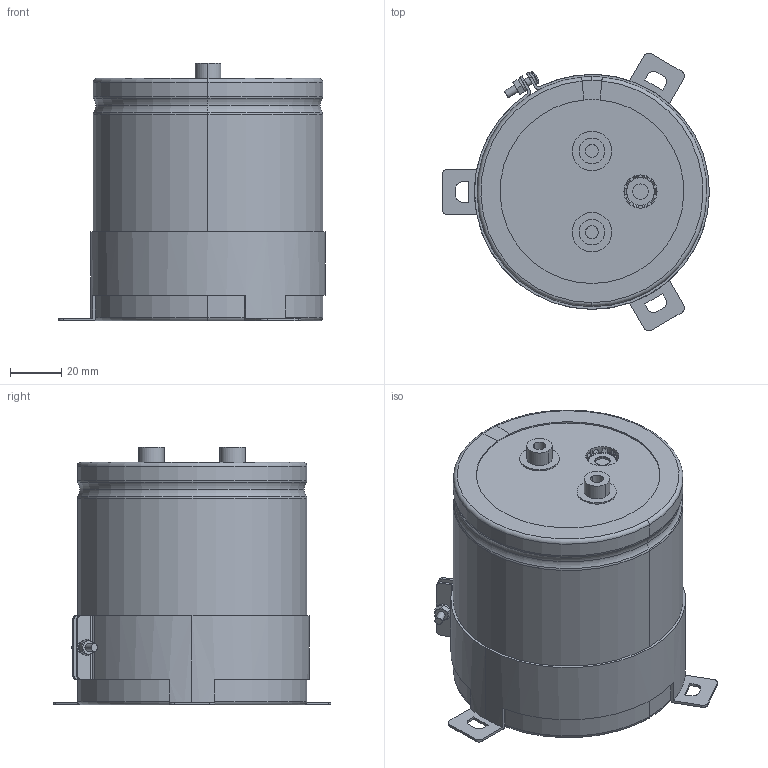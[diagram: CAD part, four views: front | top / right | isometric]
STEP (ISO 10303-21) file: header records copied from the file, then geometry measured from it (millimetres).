
FILE_DESCRIPTION(('STEP AP214'),'1');
FILE_NAME('90x95_Screw.stp','2022-03-14T05:41:08',(' '),(' '),'Spatial InterOp 3D',' ',' ');
FILE_SCHEMA(('AUTOMOTIVE_DESIGN { 1 0 10303 214 1 1 1 1 }'));
Length unit declared in the file: metre
Products named in the file (10): 90x95_Screw; Component1; Component2; Component3; Component4; Component5; Component6; Component7; Component8; Component9
Assembly tree (9 placements, depth 2):
  90x95_Screw
    Component1
    Component2
    Component3
    Component4
    Component5
    Component6
    Component7
    Component8
    Component9
Bounding box: 104.5 x 108.86 x 101 mm (x, y, z)
Volume: 606924.2 mm3; surface area: 120337.5 mm2
Topology: 9 solids, 9 shells, 352 faces, 873 edges, 551 vertices
Faces by surface type: plane 112, cylinder 110, torus 90, cone 38, sphere 2
Entity records: 11474 total; most frequent: DIRECTION 2126, CARTESIAN_POINT 1918, ORIENTED_EDGE 1746, AXIS2_PLACEMENT_3D 919, EDGE_CURVE 873, VERTEX_POINT 551, CIRCLE 511, EDGE_LOOP 380
